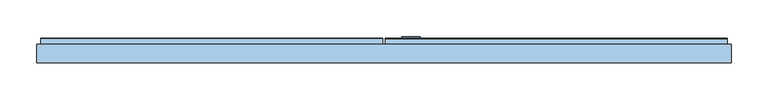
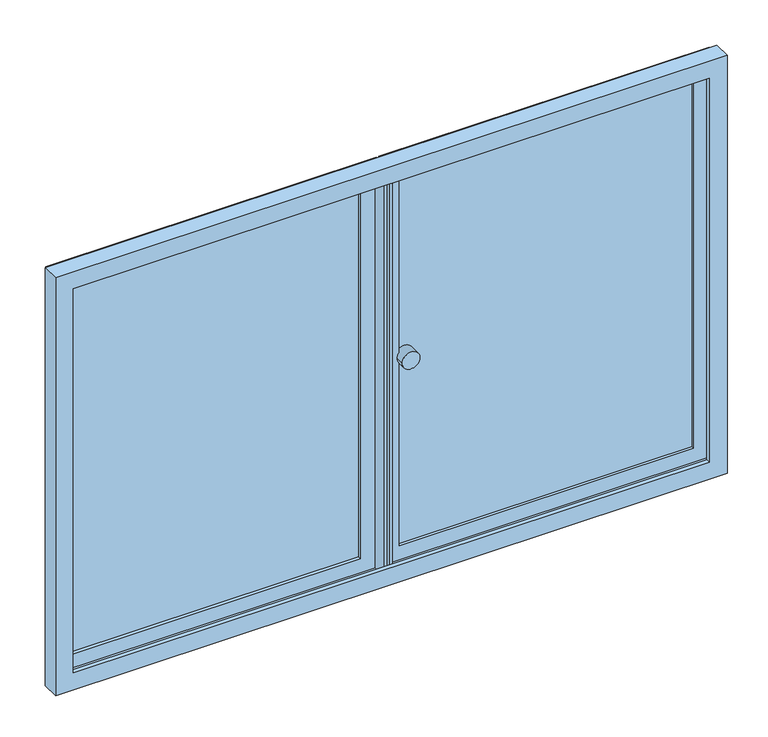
"""IFC4 building model written with IfcOpenShell, lengths in millimetres: window geometry, H108 Puertas nichos : H108.1 Puerta nicho 95x62.5."""

from ifc_helpers import new_model, si_unit, point, frame, frame_2d, origin, place, context, project, spatial, polyline, circle_curve, trimmed, segment, composite_curve, outline, extrude, faceted_brep, source, transform, mapped, element, save


def window_77fab793(model_context):
    return source(origin(), model_context, "Body", "SolidModel", [
        extrude(outline(composite_curve([segment(trimmed(circle_curve(frame_2d((1112.5, 37.0)), 12.5), [point((1112.5, 24.5))], [point((1112.5, 49.5))], False, "CARTESIAN"), True, "CONTINUOUS"), segment(trimmed(circle_curve(frame_2d((1112.5, 37.0)), 12.5), [point((1112.5, 49.5))], [point((1112.5, 24.5))], False, "CARTESIAN"), True, "CONTINUOUS")], self_intersect=False)), frame((0.0, 35.7, 0.0), z_axis=(0.0, 1.0, 0.0), x_axis=(0.0, 0.0, 1.0)), (0.0, 0.0, 1.0), 20.0),
        faceted_brep([(-475.0, 19.7, 1425.0), (-475.0, 45.1, 1425.0), (-475.0, 45.1, 800.0), (-475.0, 19.7, 800.0), (475.0, 45.1, 1425.0), (475.0, 45.1, 800.0), (-469.0, 45.1, 806.0), (469.0, 45.1, 806.0), (469.0, 45.1, 1419.0), (-469.0, 45.1, 1419.0), (475.0, 19.7, 800.0), (475.0, 19.7, 1425.0), (-449.6, 19.7, 1399.6), (449.6, 19.7, 1399.6), (449.6, 19.7, 825.4), (-449.6, 19.7, 825.4), (-469.0, 25.7, 1419.0), (-469.0, 25.7, 806.0), (469.0, 25.7, 1419.0), (469.0, 25.7, 806.0), (-449.6, 25.7, 825.4), (449.6, 25.7, 825.4), (449.6, 25.7, 1399.6), (-449.6, 25.7, 1399.6)], [[[0, 1, 2, 3]], [[1, 4, 5, 2], [6, 7, 8, 9]], [[3, 2, 5, 10]], [[3, 10, 11, 0], [12, 13, 14, 15]], [[9, 16, 17, 6]], [[16, 18, 19, 17], [20, 21, 22, 23]], [[6, 17, 19, 7]], [[23, 12, 15, 20]], [[20, 15, 14, 21]], [[10, 5, 4, 11]], [[7, 19, 18, 8]], [[21, 14, 13, 22]], [[11, 4, 1, 0]], [[8, 18, 16, 9]], [[22, 13, 12, 23]]]),
        faceted_brep([(-2.0, 52.4, 1419.0), (-2.0, 27.0, 1419.0), (-2.0, 27.0, 806.0), (-2.0, 52.4, 806.0), (-469.0, 27.0, 1419.0), (-469.0, 27.0, 806.0), (-6.5, 27.0, 810.5), (-464.5, 27.0, 810.5), (-464.5, 27.0, 1414.5), (-6.5, 27.0, 1414.5), (-469.0, 52.4, 806.0), (-469.0, 52.4, 1419.0), (-27.4, 52.4, 1393.6), (-443.6, 52.4, 1393.6), (-443.6, 52.4, 831.4), (-27.4, 52.4, 831.4), (-6.5, 47.9, 1414.5), (-6.5, 47.9, 810.5), (-464.5, 47.9, 1414.5), (-464.5, 47.9, 810.5), (-27.4, 47.9, 831.4), (-443.6, 47.9, 831.4), (-443.6, 47.9, 1393.6), (-27.4, 47.9, 1393.6)], [[[0, 1, 2, 3]], [[1, 4, 5, 2], [6, 7, 8, 9]], [[3, 2, 5, 10]], [[3, 10, 11, 0], [12, 13, 14, 15]], [[9, 16, 17, 6]], [[16, 18, 19, 17], [20, 21, 22, 23]], [[6, 17, 19, 7]], [[23, 12, 15, 20]], [[20, 15, 14, 21]], [[10, 5, 4, 11]], [[7, 19, 18, 8]], [[21, 14, 13, 22]], [[11, 4, 1, 0]], [[8, 18, 16, 9]], [[22, 13, 12, 23]]]),
        extrude(outline(polyline([(-2.0, 52.4), (-469.0, 52.4), (-469.0, 53.7), (-2.0, 53.7), (-2.0, 52.4)])), frame((0.0, 0.0, 806.0), z_axis=(0.0, 0.0, 1.0), x_axis=(1.0, 0.0, 0.0)), (0.0, 0.0, 1.0), 613.0),
        extrude(outline(polyline([(2.0, 53.7), (469.0, 53.7), (469.0, 52.4), (2.0, 52.4), (2.0, 53.7)])), frame((0.0, 0.0, 806.0), z_axis=(0.0, 0.0, 1.0), x_axis=(1.0, 0.0, 0.0)), (0.0, 0.0, 1.0), 613.0),
        faceted_brep([(27.4, 52.4, 1393.6), (27.4, 47.9, 1393.6), (27.4, 47.9, 831.4), (27.4, 52.4, 831.4), (6.5, 47.9, 810.5), (464.5, 47.9, 810.5), (464.5, 47.9, 1414.5), (6.5, 47.9, 1414.5), (443.6, 47.9, 1393.6), (443.6, 47.9, 831.4), (443.6, 52.4, 831.4), (2.0, 52.4, 1419.0), (469.0, 52.4, 1419.0), (469.0, 52.4, 806.0), (2.0, 52.4, 806.0), (443.6, 52.4, 1393.6), (6.5, 27.0, 1414.5), (6.5, 27.0, 810.5), (2.0, 27.0, 806.0), (469.0, 27.0, 806.0), (469.0, 27.0, 1419.0), (2.0, 27.0, 1419.0), (464.5, 27.0, 1414.5), (464.5, 27.0, 810.5)], [[[0, 1, 2, 3]], [[4, 5, 6, 7], [1, 8, 9, 2]], [[3, 2, 9, 10]], [[11, 12, 13, 14], [3, 10, 15, 0]], [[7, 16, 17, 4]], [[18, 19, 20, 21], [16, 22, 23, 17]], [[4, 17, 23, 5]], [[21, 11, 14, 18]], [[18, 14, 13, 19]], [[10, 9, 8, 15]], [[5, 23, 22, 6]], [[19, 13, 12, 20]], [[15, 8, 1, 0]], [[6, 22, 16, 7]], [[20, 12, 11, 21]]]),
    ])


if __name__ == "__main__":
    model = new_model("IFC4")
    model_context = context("Model", 3, world=origin())
    ifc_project = project(units=[si_unit("LENGTHUNIT", "METRE", prefix="MILLI")], contexts=[model_context])
    site = spatial("IfcSite", under=ifc_project)
    building = spatial("IfcBuilding", under=site)
    placement = place(None, origin())
    window_shape = window_77fab793(model_context)
    element("IfcWindow", 1, ObjectType="H108 Puertas nichos : H108.1 Puerta nicho 95x62.5", at=placement, inside=building, context=model_context, shape_type="MappedRepresentation", body=[
        mapped(window_shape, transform((0.0, 0.0, 0.0), x_axis=(1.0, 0.0, 0.0), y_axis=(0.0, 1.0, 0.0), z_axis=(0.0, 0.0, 1.0))),
    ])
    save(model, "model.ifc")
